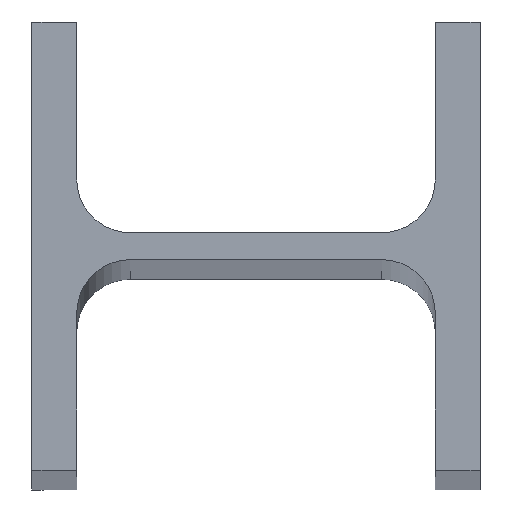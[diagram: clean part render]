
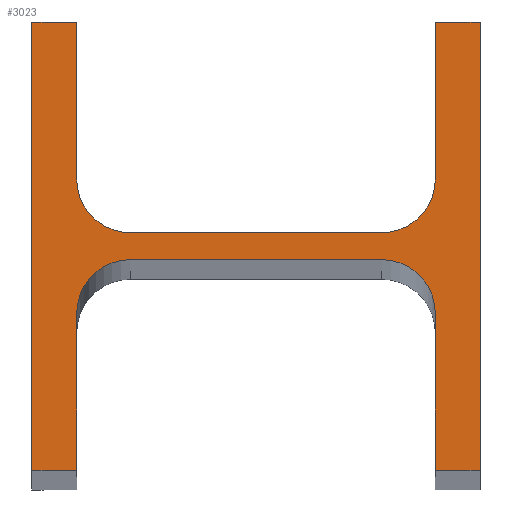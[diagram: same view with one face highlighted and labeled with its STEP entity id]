
A CAD part, top view. The second image highlights one B-rep face of the part: STEP entity #3023.
In plain terms, the highlighted planar face has unit normal (0, 0, 1).
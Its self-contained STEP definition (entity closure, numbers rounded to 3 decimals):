
#5 = EDGE_CURVE ( 'NONE', #2936, #3018, #21, .T. ) ;
#21 = LINE ( 'NONE', #845, #2184 ) ;
#84 = VERTEX_POINT ( 'NONE', #1036 ) ;
#103 = DIRECTION ( 'NONE',  ( 0., -1., 0. ) ) ;
#118 = VECTOR ( 'NONE', #3635, 1000. ) ;
#130 = FACE_OUTER_BOUND ( 'NONE', #3253, .T. ) ;
#169 = LINE ( 'NONE', #819, #1475 ) ;
#171 = ORIENTED_EDGE ( 'NONE', *, *, #673, .T. ) ;
#203 = DIRECTION ( 'NONE',  ( -1., 0., 0. ) ) ;
#289 = CARTESIAN_POINT ( 'NONE',  ( -50., 50., 5010. ) ) ;
#303 = AXIS2_PLACEMENT_3D ( 'NONE', #1708, #2416, #1136 ) ;
#304 = AXIS2_PLACEMENT_3D ( 'NONE', #2103, #660, #1008 ) ;
#308 = CARTESIAN_POINT ( 'NONE',  ( -28., 3., 5010. ) ) ;
#379 = CARTESIAN_POINT ( 'NONE',  ( -40., -15., 5010. ) ) ;
#402 = CARTESIAN_POINT ( 'NONE',  ( -50., -50., 5010. ) ) ;
#503 = ORIENTED_EDGE ( 'NONE', *, *, #2081, .T. ) ;
#556 = VECTOR ( 'NONE', #1205, 1000. ) ;
#558 = VECTOR ( 'NONE', #3595, 1000. ) ;
#567 = DIRECTION ( 'NONE',  ( -1., 0., 0. ) ) ;
#657 = CARTESIAN_POINT ( 'NONE',  ( -50., -50., 5010. ) ) ;
#660 = DIRECTION ( 'NONE',  ( 0., 0., -1. ) ) ;
#673 = EDGE_CURVE ( 'NONE', #2537, #3219, #2123, .T. ) ;
#710 = LINE ( 'NONE', #308, #1542 ) ;
#721 = EDGE_CURVE ( 'NONE', #1653, #84, #909, .T. ) ;
#768 = VERTEX_POINT ( 'NONE', #2541 ) ;
#802 = VECTOR ( 'NONE', #2284, 1000. ) ;
#819 = CARTESIAN_POINT ( 'NONE',  ( 28., -3., 5010. ) ) ;
#821 = VERTEX_POINT ( 'NONE', #2222 ) ;
#845 = CARTESIAN_POINT ( 'NONE',  ( 40., -50., 5010. ) ) ;
#863 = DIRECTION ( 'NONE',  ( 0., -1., 0. ) ) ;
#879 = CARTESIAN_POINT ( 'NONE',  ( 28., 3., 5010. ) ) ;
#909 = LINE ( 'NONE', #967, #556 ) ;
#925 = DIRECTION ( 'NONE',  ( 0., 0., -1. ) ) ;
#941 = VERTEX_POINT ( 'NONE', #379 ) ;
#967 = CARTESIAN_POINT ( 'NONE',  ( -40., 50., 5010. ) ) ;
#1008 = DIRECTION ( 'NONE',  ( -1., 0., 0. ) ) ;
#1021 = CARTESIAN_POINT ( 'NONE',  ( 28., 15., 5010. ) ) ;
#1036 = CARTESIAN_POINT ( 'NONE',  ( -40., 50., 5010. ) ) ;
#1048 = AXIS2_PLACEMENT_3D ( 'NONE', #1485, #2062, #2018 ) ;
#1132 = ORIENTED_EDGE ( 'NONE', *, *, #1455, .T. ) ;
#1136 = DIRECTION ( 'NONE',  ( 1., 0., 0. ) ) ;
#1147 = EDGE_CURVE ( 'NONE', #1321, #2045, #169, .T. ) ;
#1152 = LINE ( 'NONE', #3154, #802 ) ;
#1159 = LINE ( 'NONE', #1387, #1175 ) ;
#1175 = VECTOR ( 'NONE', #3138, 1000. ) ;
#1205 = DIRECTION ( 'NONE',  ( 0., 1., 0. ) ) ;
#1241 = EDGE_CURVE ( 'NONE', #2045, #2936, #1965, .T. ) ;
#1278 = CARTESIAN_POINT ( 'NONE',  ( -40., 15., 5010. ) ) ;
#1321 = VERTEX_POINT ( 'NONE', #1810 ) ;
#1329 = CARTESIAN_POINT ( 'NONE',  ( 40., 15., 5010. ) ) ;
#1354 = VECTOR ( 'NONE', #2675, 1000. ) ;
#1387 = CARTESIAN_POINT ( 'NONE',  ( 50., -50., 5010. ) ) ;
#1455 = EDGE_CURVE ( 'NONE', #3018, #2727, #1159, .T. ) ;
#1475 = VECTOR ( 'NONE', #3773, 1000. ) ;
#1485 = CARTESIAN_POINT ( 'NONE',  ( -28., 15., 5010. ) ) ;
#1542 = VECTOR ( 'NONE', #3231, 1000. ) ;
#1558 = ORIENTED_EDGE ( 'NONE', *, *, #5, .T. ) ;
#1565 = EDGE_CURVE ( 'NONE', #2368, #768, #1152, .T. ) ;
#1653 = VERTEX_POINT ( 'NONE', #1278 ) ;
#1682 = ORIENTED_EDGE ( 'NONE', *, *, #721, .T. ) ;
#1704 = CARTESIAN_POINT ( 'NONE',  ( 50., -50., 5010. ) ) ;
#1708 = CARTESIAN_POINT ( 'NONE',  ( -28., -15., 5010. ) ) ;
#1756 = CARTESIAN_POINT ( 'NONE',  ( -40., -50., 5010. ) ) ;
#1774 = EDGE_CURVE ( 'NONE', #768, #3676, #2500, .T. ) ;
#1805 = VERTEX_POINT ( 'NONE', #879 ) ;
#1810 = CARTESIAN_POINT ( 'NONE',  ( -28., -3., 5010. ) ) ;
#1844 = VECTOR ( 'NONE', #2988, 1000. ) ;
#1848 = CIRCLE ( 'NONE', #2467, 12. ) ;
#1903 = CARTESIAN_POINT ( 'NONE',  ( 40., 15., 5010. ) ) ;
#1940 = EDGE_CURVE ( 'NONE', #941, #1321, #3012, .T. ) ;
#1965 = CIRCLE ( 'NONE', #2019, 12. ) ;
#2018 = DIRECTION ( 'NONE',  ( -1., 0., 0. ) ) ;
#2019 = AXIS2_PLACEMENT_3D ( 'NONE', #2278, #925, #567 ) ;
#2045 = VERTEX_POINT ( 'NONE', #3338 ) ;
#2062 = DIRECTION ( 'NONE',  ( 0., 0., -1. ) ) ;
#2081 = EDGE_CURVE ( 'NONE', #84, #2537, #3232, .T. ) ;
#2091 = VECTOR ( 'NONE', #3811, 1000. ) ;
#2103 = CARTESIAN_POINT ( 'NONE',  ( -28., 15., 5010. ) ) ;
#2106 = EDGE_CURVE ( 'NONE', #2727, #2368, #2696, .T. ) ;
#2123 = LINE ( 'NONE', #402, #1354 ) ;
#2130 = LINE ( 'NONE', #3320, #118 ) ;
#2152 = VECTOR ( 'NONE', #103, 1000. ) ;
#2184 = VECTOR ( 'NONE', #863, 1000. ) ;
#2222 = CARTESIAN_POINT ( 'NONE',  ( -40., -50., 5010. ) ) ;
#2246 = ORIENTED_EDGE ( 'NONE', *, *, #3437, .T. ) ;
#2270 = EDGE_CURVE ( 'NONE', #2583, #1653, #2640, .T. ) ;
#2278 = CARTESIAN_POINT ( 'NONE',  ( 28., -15., 5010. ) ) ;
#2284 = DIRECTION ( 'NONE',  ( -1., 0., 0. ) ) ;
#2306 = ORIENTED_EDGE ( 'NONE', *, *, #1940, .T. ) ;
#2368 = VERTEX_POINT ( 'NONE', #2655 ) ;
#2373 = CARTESIAN_POINT ( 'NONE',  ( -50., 50., 5010. ) ) ;
#2416 = DIRECTION ( 'NONE',  ( 0., 0., -1. ) ) ;
#2419 = CARTESIAN_POINT ( 'NONE',  ( 50., 50., 5010. ) ) ;
#2467 = AXIS2_PLACEMENT_3D ( 'NONE', #1021, #2769, #203 ) ;
#2470 = PLANE ( 'NONE',  #304 ) ;
#2480 = ORIENTED_EDGE ( 'NONE', *, *, #2106, .T. ) ;
#2500 = LINE ( 'NONE', #1903, #2152 ) ;
#2537 = VERTEX_POINT ( 'NONE', #2373 ) ;
#2541 = CARTESIAN_POINT ( 'NONE',  ( 40., 50., 5010. ) ) ;
#2565 = ORIENTED_EDGE ( 'NONE', *, *, #3593, .T. ) ;
#2583 = VERTEX_POINT ( 'NONE', #3770 ) ;
#2640 = CIRCLE ( 'NONE', #1048, 12. ) ;
#2655 = CARTESIAN_POINT ( 'NONE',  ( 50., 50., 5010. ) ) ;
#2675 = DIRECTION ( 'NONE',  ( 0., -1., 0. ) ) ;
#2696 = LINE ( 'NONE', #2419, #558 ) ;
#2718 = ORIENTED_EDGE ( 'NONE', *, *, #2952, .T. ) ;
#2727 = VERTEX_POINT ( 'NONE', #1704 ) ;
#2769 = DIRECTION ( 'NONE',  ( 0., 0., -1. ) ) ;
#2936 = VERTEX_POINT ( 'NONE', #3228 ) ;
#2952 = EDGE_CURVE ( 'NONE', #3219, #821, #3572, .T. ) ;
#2988 = DIRECTION ( 'NONE',  ( -1., 0., 0. ) ) ;
#3012 = CIRCLE ( 'NONE', #303, 12. ) ;
#3018 = VERTEX_POINT ( 'NONE', #3349 ) ;
#3023 = ADVANCED_FACE ( 'NONE', ( #130 ), #2470, .F. ) ;
#3138 = DIRECTION ( 'NONE',  ( 1., 0., 0. ) ) ;
#3154 = CARTESIAN_POINT ( 'NONE',  ( 40., 50., 5010. ) ) ;
#3195 = ORIENTED_EDGE ( 'NONE', *, *, #2270, .T. ) ;
#3211 = ORIENTED_EDGE ( 'NONE', *, *, #1565, .T. ) ;
#3219 = VERTEX_POINT ( 'NONE', #657 ) ;
#3228 = CARTESIAN_POINT ( 'NONE',  ( 40., -15., 5010. ) ) ;
#3231 = DIRECTION ( 'NONE',  ( -1., 0., 0. ) ) ;
#3232 = LINE ( 'NONE', #289, #1844 ) ;
#3253 = EDGE_LOOP ( 'NONE', ( #2718, #2565, #2306, #3691, #3639, #1558, #1132, #2480, #3211, #3647, #2246, #3543, #3195, #1682, #503, #171 ) ) ;
#3320 = CARTESIAN_POINT ( 'NONE',  ( -40., -15., 5010. ) ) ;
#3338 = CARTESIAN_POINT ( 'NONE',  ( 28., -3., 5010. ) ) ;
#3349 = CARTESIAN_POINT ( 'NONE',  ( 40., -50., 5010. ) ) ;
#3437 = EDGE_CURVE ( 'NONE', #3676, #1805, #1848, .T. ) ;
#3543 = ORIENTED_EDGE ( 'NONE', *, *, #3733, .T. ) ;
#3572 = LINE ( 'NONE', #1756, #2091 ) ;
#3593 = EDGE_CURVE ( 'NONE', #821, #941, #2130, .T. ) ;
#3595 = DIRECTION ( 'NONE',  ( 0., 1., 0. ) ) ;
#3635 = DIRECTION ( 'NONE',  ( 0., 1., 0. ) ) ;
#3639 = ORIENTED_EDGE ( 'NONE', *, *, #1241, .T. ) ;
#3647 = ORIENTED_EDGE ( 'NONE', *, *, #1774, .T. ) ;
#3676 = VERTEX_POINT ( 'NONE', #1329 ) ;
#3691 = ORIENTED_EDGE ( 'NONE', *, *, #1147, .T. ) ;
#3733 = EDGE_CURVE ( 'NONE', #1805, #2583, #710, .T. ) ;
#3770 = CARTESIAN_POINT ( 'NONE',  ( -28., 3., 5010. ) ) ;
#3773 = DIRECTION ( 'NONE',  ( 1., 0., 0. ) ) ;
#3811 = DIRECTION ( 'NONE',  ( 1., 0., 0. ) ) ;
